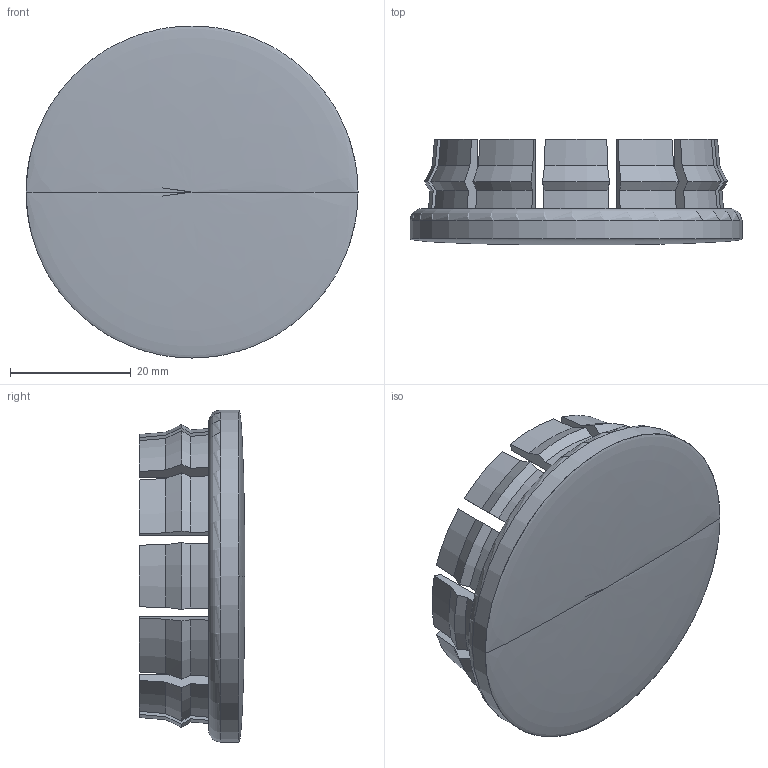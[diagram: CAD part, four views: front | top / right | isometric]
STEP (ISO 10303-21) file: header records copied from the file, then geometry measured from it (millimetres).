
FILE_DESCRIPTION(/* description */ (''),/* implementation_level */ '2;1');
FILE_NAME(/* name */ 'D:/nonnux/3D/Jeep Grand Cherokee Wheel Center Cap/Jeep Grand Cherokee WJ Wheel Center Cap.step',/* time_stamp */ '2019-11-19T10:33:42+00:00',/* author */ (''),/* organization */ (''),/* preprocessor_version */ 'ST-DEVELOPER v18',/* originating_system */ 'Autodesk Translation Framework v8.9.1.1155',/* authorisation */ '');
FILE_SCHEMA (('AUTOMOTIVE_DESIGN { 1 0 10303 214 3 1 1 }','FEATURE_BASED_PROCESS_PLANNING','AP242_MANAGED_MODEL_BASED_3D_ENGINEERING_MIM_LF { 1 0 10303 442 1 1 4 }'));
Length unit declared in the file: millimetre
Products named in the file (1): (Unsaved)
Bounding box: 55 x 17.5 x 55 mm (x, y, z)
Volume: 11161.3 mm3; surface area: 9289.8 mm2
Topology: 1 solids, 1 shells, 139 faces, 411 edges, 273 vertices
Faces by surface type: plane 62, cone 60, torus 13, cylinder 2, bspline 2
Full cylindrical faces by diameter (mm): 44 x1, 55 x1
Entity records: 4759 total; most frequent: CARTESIAN_POINT 1008, ORIENTED_EDGE 818, DIRECTION 800, EDGE_CURVE 409, AXIS2_PLACEMENT_3D 303, VERTEX_POINT 273, LINE 194, VECTOR 194
